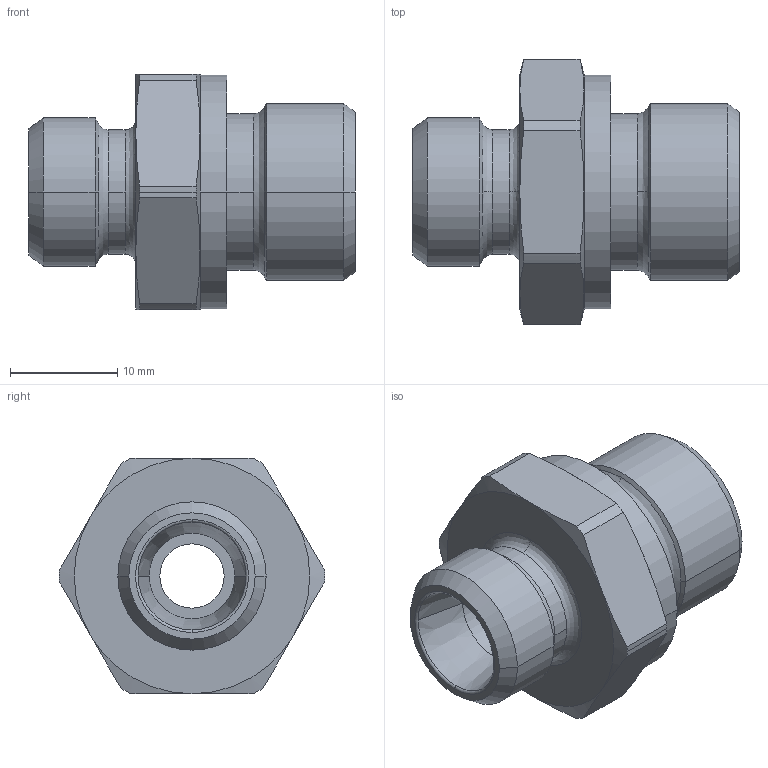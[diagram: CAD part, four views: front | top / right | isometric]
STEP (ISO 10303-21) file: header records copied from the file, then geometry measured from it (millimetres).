
FILE_DESCRIPTION((''),'2;1');
FILE_NAME('100526.stp','2007-10-30T14:36:43',(''),(''),'AutoCAD STEP 2000i','AutoCAD 2000i',', , ');
FILE_SCHEMA(('CONFIG_CONTROL_DESIGN'));
Length unit declared in the file: millimetre
Products named in the file (2): 100526.0; CHIAVE SMUSSATA#0
Assembly tree (1 placements, depth 2):
  100526.0
    CHIAVE SMUSSATA#0
Bounding box: 30.5 x 24.8 x 22 mm (x, y, z)
Volume: 5863.1 mm3; surface area: 3163.6 mm2
Topology: 1 solids, 1 shells, 75 faces, 185 edges, 117 vertices
Faces by surface type: cylinder 24, cone 24, plane 13, bspline 12, torus 2
Entity records: 2835 total; most frequent: CARTESIAN_POINT 955, DIRECTION 410, ORIENTED_EDGE 370, EDGE_CURVE 185, AXIS2_PLACEMENT_3D 184, CIRCLE 119, VERTEX_POINT 117, EDGE_LOOP 82
